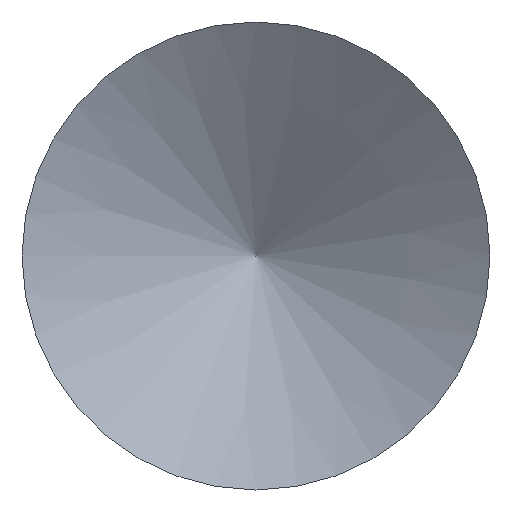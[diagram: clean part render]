
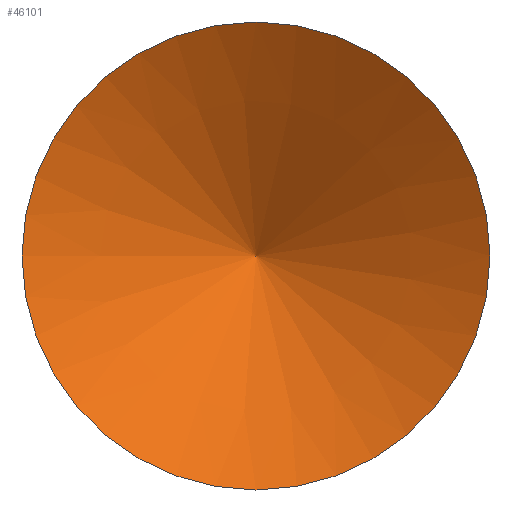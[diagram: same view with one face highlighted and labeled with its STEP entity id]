
A CAD part, left-side view. The second image highlights one B-rep face of the part: STEP entity #46101.
In plain terms, the highlighted conical face has half-angle 59 degrees and reference radius 1.487 mm.
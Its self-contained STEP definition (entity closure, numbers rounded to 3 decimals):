
#7104=FACE_OUTER_BOUND('',#9931,.T.);
#9931=EDGE_LOOP('',(#32808,#32809,#32810,#32811));
#12648=LINE('',#77403,#14455);
#14455=VECTOR('',#54331,1.487);
#16740=CIRCLE('',#49579,2.973);
#16741=CIRCLE('',#49580,2.973);
#19136=VERTEX_POINT('',#77398);
#19137=VERTEX_POINT('',#77399);
#19138=VERTEX_POINT('',#77402);
#24269=EDGE_CURVE('',#19136,#19137,#16740,.T.);
#24270=EDGE_CURVE('',#19137,#19136,#16741,.T.);
#24271=EDGE_CURVE('',#19137,#19138,#12648,.T.);
#32808=ORIENTED_EDGE('',*,*,#24269,.F.);
#32809=ORIENTED_EDGE('',*,*,#24270,.F.);
#32810=ORIENTED_EDGE('',*,*,#24271,.T.);
#32811=ORIENTED_EDGE('',*,*,#24271,.F.);
#45474=CONICAL_SURFACE('',#49578,1.487,1.03);
#46101=ADVANCED_FACE('',(#7104),#45474,.F.);
#49578=AXIS2_PLACEMENT_3D('',#77397,#54325,#54326);
#49579=AXIS2_PLACEMENT_3D('',#77400,#54327,#54328);
#49580=AXIS2_PLACEMENT_3D('',#77401,#54329,#54330);
#54325=DIRECTION('center_axis',(-1.,0.,0.));
#54326=DIRECTION('ref_axis',(0.,-1.,0.));
#54327=DIRECTION('center_axis',(1.,0.,0.));
#54328=DIRECTION('ref_axis',(0.,-1.,0.));
#54329=DIRECTION('center_axis',(1.,0.,0.));
#54330=DIRECTION('ref_axis',(0.,-1.,0.));
#54331=DIRECTION('',(0.515,-0.857,0.));
#77397=CARTESIAN_POINT('Origin',(-12.425,7.944,45.053));
#77398=CARTESIAN_POINT('',(-13.319,4.971,45.053));
#77399=CARTESIAN_POINT('',(-13.319,10.918,45.053));
#77400=CARTESIAN_POINT('Origin',(-13.319,7.944,45.053));
#77401=CARTESIAN_POINT('Origin',(-13.319,7.944,45.053));
#77402=CARTESIAN_POINT('',(-11.532,7.944,45.053));
#77403=CARTESIAN_POINT('',(-12.425,9.431,45.053));
